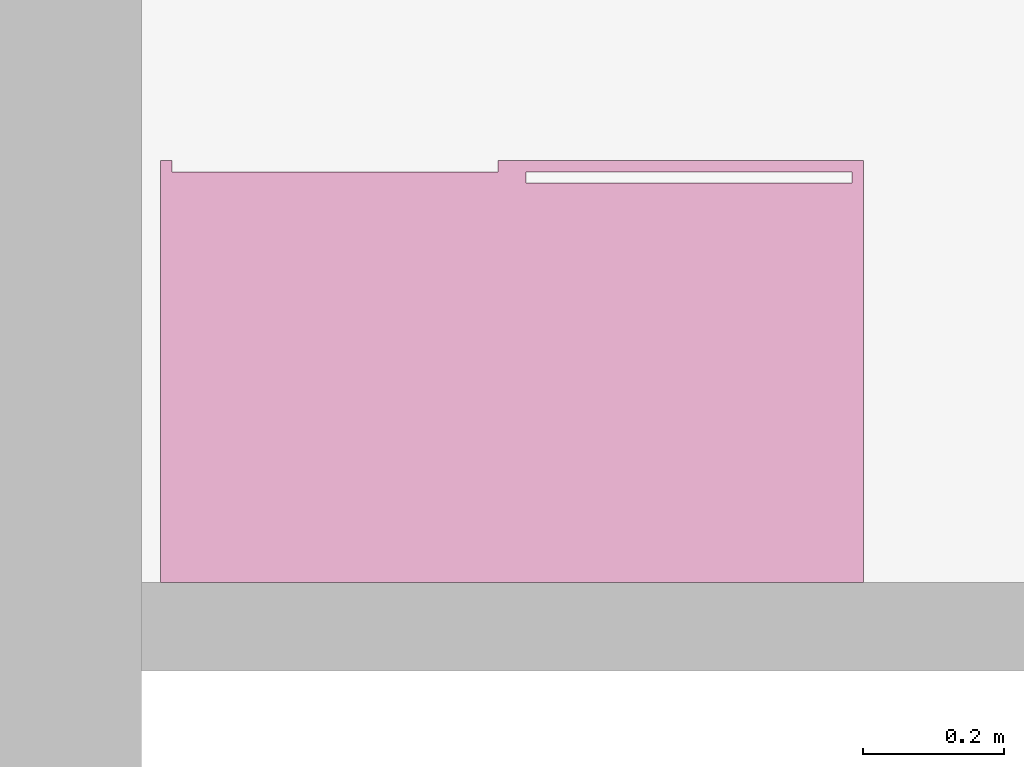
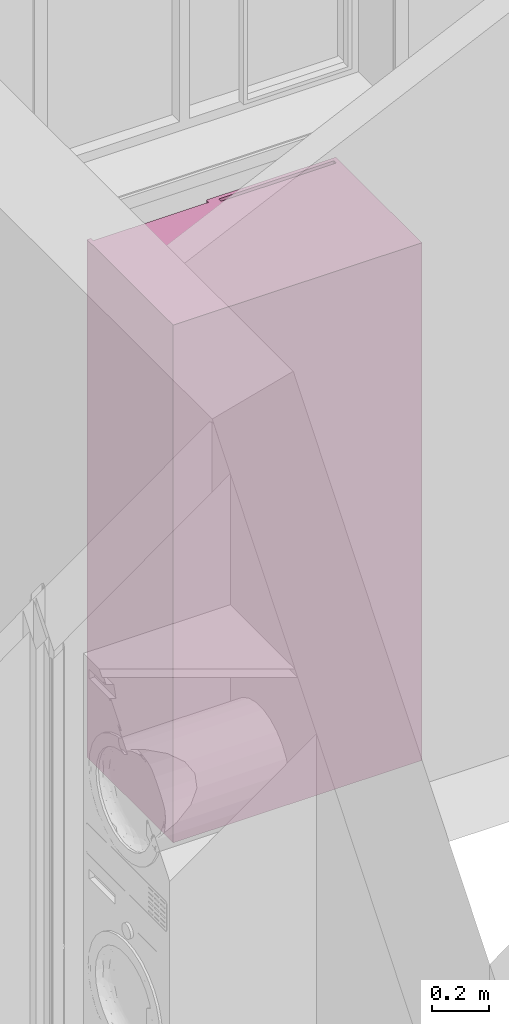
# One storey, part 39 of 44: 1 furnishing.
"""IFC2X3 building model written with IfcOpenShell, lengths in millimetres."""

from ifc_helpers import new_model, entity, si_unit, converted_unit, direction, frame, frame_2d, origin, place, context, subcontext, project, spatial, polyline, rectangle, outline, extrude, source, transform, mapped, material, type_object, type_shapes, element, save


model = new_model("IFC2X3")

# Units and contexts
model_context = context("Model", 3, precision=0.01, world=origin(), true_north=direction((0.0, 1.0)))
body_context = subcontext(model_context, "Body", "Model", "MODEL_VIEW")
ifc_project = project(units=[si_unit("LENGTHUNIT", "METRE", prefix="MILLI"), si_unit("AREAUNIT", "SQUARE_METRE"), si_unit("VOLUMEUNIT", "CUBIC_METRE"), converted_unit("PLANEANGLEUNIT", "DEGREE", entity("IfcPlaneAngleMeasure", 0.017453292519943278), si_unit("PLANEANGLEUNIT", "RADIAN"), dimensions=[0, 0, 0, 0, 0, 0, 0])], contexts=[model_context])

# Site, building, storey, space
site_placement = place(None, origin())
site = spatial("IfcSite", under=ifc_project, at=site_placement, Name="Default", CompositionType="ELEMENT")
building_placement = place(site_placement, origin())
building = spatial("IfcBuilding", under=site, at=building_placement, CompositionType="ELEMENT")
storey_placement = place(building_placement, frame((0.0, 0.0, 2681.0)))
storey = spatial("IfcBuildingStorey", under=building, at=storey_placement, Name="Et. 2", CompositionType="ELEMENT", Elevation=2681.0)
space_placement = place(storey_placement, origin())
space = spatial("IfcSpace", under=storey, at=space_placement, Name="205", CompositionType="ELEMENT", InteriorOrExteriorSpace="INTERNAL")

# Furnishing
ifc_material = material(Name="Møbler - Hvit")
furniture_type = type_object("IfcFurnitureType", Name="Focus Garderobeskap - Skyvedører 2 slette:100x60x220", AssemblyPlace="NOTDEFINED", material=ifc_material)
shared_shape = source(origin(), body_context, "Body", "SweptSolid", [
    extrude(rectangle(XDim=16.000000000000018, YDim=504.0000000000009, at=frame_2d((0.0, 4.263256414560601e-14), x_axis=(1.0, 0.0))), frame((232.0, 292.0, 10.0), z_axis=(0.0, 0.0, 1.0), x_axis=(0.0, 1.0, 0.0)), (0.0, 0.0, 1.0), 2189.9999999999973),
    extrude(rectangle(XDim=16.000000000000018, YDim=504.00000000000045, at=frame_2d((0.0, 4.263256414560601e-14), x_axis=(1.0, 0.0))), frame((-232.0, 276.0, 10.0), z_axis=(0.0, 0.0, 1.0), x_axis=(0.0, 1.0, 0.0)), (0.0, 0.0, 1.0), 2189.9999999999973),
    extrude(outline(polyline([(-442.0, -500.0), (158.0, -500.0), (158.0, -484.0), (126.0, -484.0), (126.0, 484.0), (158.0, 484.0), (158.0, 500.0), (-442.0, 500.0), (-442.0, -500.0)])), frame((0.0, 142.0, 0.0), z_axis=(0.0, 0.0, 1.0), x_axis=(0.0, 1.0, 0.0)), (0.0, 0.0, 1.0), 2200.0000000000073),
])
type_shapes(furniture_type, [shared_shape])
furnishing_placement = place(space_placement, frame((16851.009586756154, 15782.180957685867, 0.0)))
element("IfcFurnishingElement", 1, at=furnishing_placement, inside=space, type_object=furniture_type, material=ifc_material, Name="Focus Garderobeskap - Skyvedører 2 slette:100x60x220", context=body_context, shape_type="MappedRepresentation", body=[
    mapped(shared_shape, transform((0.0, 0.0, 0.0), scale=1.0)),
])

save(model, "model.ifc")
